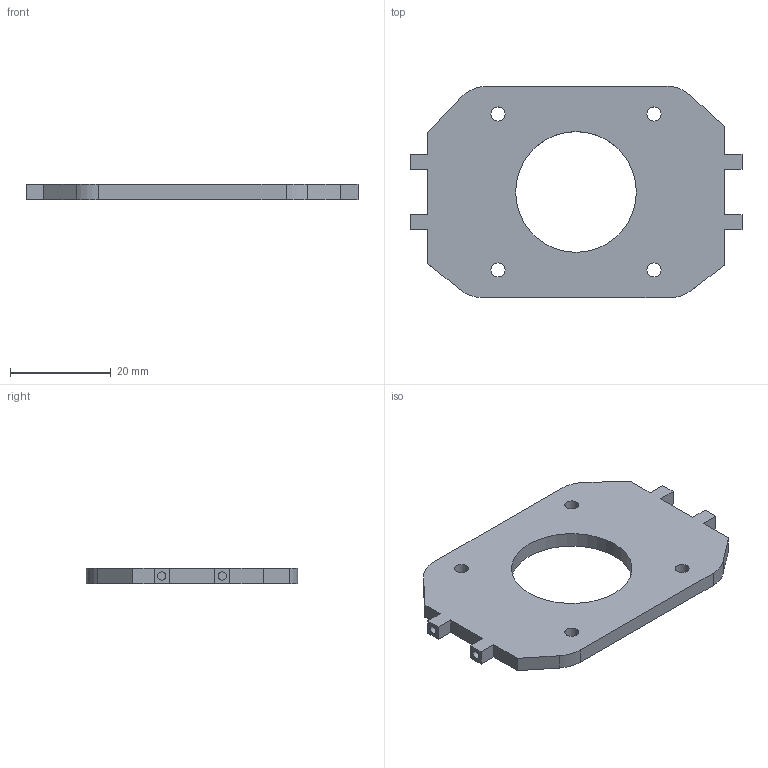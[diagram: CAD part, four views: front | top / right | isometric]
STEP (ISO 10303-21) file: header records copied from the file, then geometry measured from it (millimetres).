
FILE_DESCRIPTION(/* description */ (''),/* implementation_level */ '2;1');
FILE_NAME(/* name */ 'C:/Users/Rasika Jadhav/Downloads/Mission 2 FLoatSat/Stepper_Motor_Holder (1) v4.step',/* time_stamp */ '2022-05-16T03:23:33+02:00',/* author */ (''),/* organization */ (''),/* preprocessor_version */ 'ST-DEVELOPER v18.1',/* originating_system */ 'Autodesk Translation Framework v10.14.0.1471',/* authorisation */ '');
FILE_SCHEMA (('AUTOMOTIVE_DESIGN { 1 0 10303 214 3 1 1 }'));
Length unit declared in the file: millimetre
Products named in the file (1): Stepper_Motor_Holder (1)
Bounding box: 66 x 42 x 3 mm (x, y, z)
Volume: 5702.6 mm3; surface area: 4842.1 mm2
Topology: 1 solids, 1 shells, 43 faces, 111 edges, 74 vertices
Faces by surface type: plane 30, cylinder 13
Full cylindrical faces by diameter (mm): 1.623 x4, 2.8 x4, 24 x1
Entity records: 1364 total; most frequent: CARTESIAN_POINT 229, DIRECTION 225, ORIENTED_EDGE 222, EDGE_CURVE 111, LINE 85, VECTOR 85, VERTEX_POINT 74, AXIS2_PLACEMENT_3D 70
